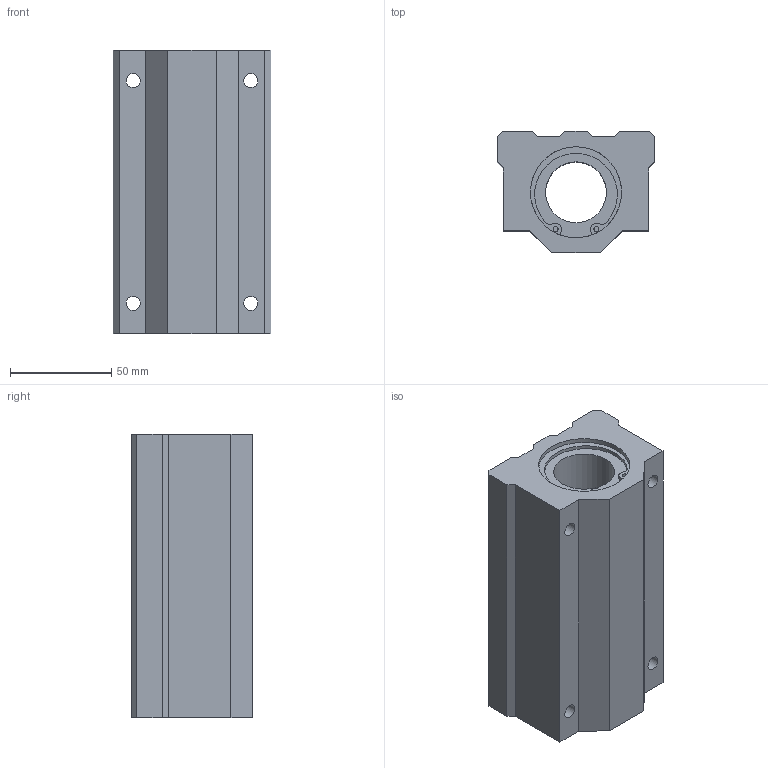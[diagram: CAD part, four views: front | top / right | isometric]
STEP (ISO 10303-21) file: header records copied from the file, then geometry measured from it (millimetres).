
FILE_DESCRIPTION(('STEP AP203'),'1');
FILE_NAME('//192.168.1.1/share/s-4 技術開発/s-4-4_CAD/s-4-4-3_見直し済み/008 修正済み/LC-L/LC-L_TOP/LC-30VLUU.step','2022-05-19T01:16:19',(' '),(' '),'Spatial InterOp 3D',' ',' ');
FILE_SCHEMA(('CONFIG_CONTROL_DESIGN'));
Length unit declared in the file: millimetre
Products named in the file (1): 1
Bounding box: 78 x 59.5 x 140 mm (x, y, z)
Volume: 436366.8 mm3; surface area: 60459.1 mm2
Topology: 1 solids, 1 shells, 65 faces, 171 edges, 114 vertices
Faces by surface type: plane 36, cylinder 29
Full cylindrical faces by diameter (mm): 2.5 x4, 7 x8, 30 x1, 45 x2
Entity records: 1956 total; most frequent: DIRECTION 338, CARTESIAN_POINT 324, ORIENTED_EDGE 300, EDGE_CURVE 150, AXIS2_PLACEMENT_3D 122, VERTEX_POINT 108, EDGE_LOOP 96, LINE 94
